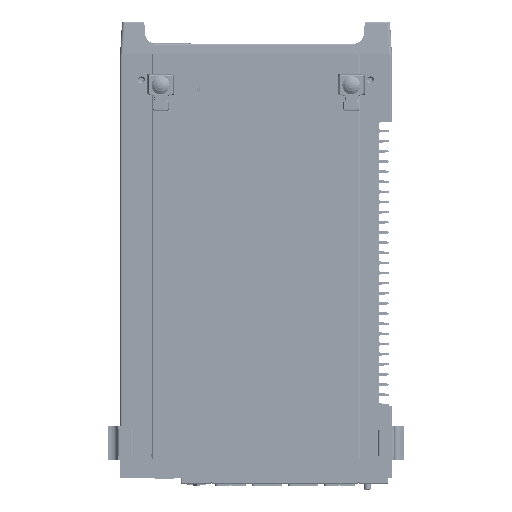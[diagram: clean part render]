
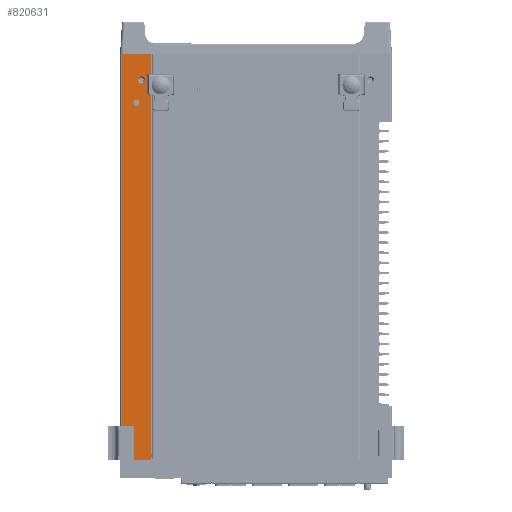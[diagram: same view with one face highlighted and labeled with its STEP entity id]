
A CAD part, front view. The second image highlights one B-rep face of the part: STEP entity #820631.
In plain terms, the highlighted planar face has unit normal (0, -1, 0).
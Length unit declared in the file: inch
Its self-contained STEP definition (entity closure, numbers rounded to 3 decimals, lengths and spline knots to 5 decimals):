
#815672=DIRECTION('',(1.,0.,0.));
#815673=VECTOR('',#815672,0.905);
#815674=CARTESIAN_POINT('',(6.905,-0.05,0.));
#815675=LINE('',#815674,#815673);
#816388=DIRECTION('',(1.,0.,0.));
#816389=VECTOR('',#816388,0.525);
#816390=CARTESIAN_POINT('',(6.905,-0.05,12.55));
#816391=LINE('',#816390,#816389);
#816451=DIRECTION('',(1.,0.,0.));
#816452=VECTOR('',#816451,0.255);
#816453=CARTESIAN_POINT('',(7.555,-0.05,12.55));
#816454=LINE('',#816453,#816452);
#816672=DIRECTION('',(0.,0.,-1.));
#816673=VECTOR('',#816672,0.73);
#816674=CARTESIAN_POINT('',(7.43,-0.05,12.55));
#816675=LINE('',#816674,#816673);
#816679=DIRECTION('',(1.,0.,0.));
#816680=VECTOR('',#816679,0.125);
#816681=CARTESIAN_POINT('',(7.43,-0.05,11.82));
#816682=LINE('',#816681,#816680);
#816686=DIRECTION('',(0.,0.,-1.));
#816687=VECTOR('',#816686,0.73);
#816688=CARTESIAN_POINT('',(7.555,-0.05,12.55));
#816689=LINE('',#816688,#816687);
#816693=DIRECTION('',(0.,0.,1.));
#816694=VECTOR('',#816693,12.55);
#816695=CARTESIAN_POINT('',(6.905,-0.05,0.));
#816696=LINE('',#816695,#816694);
#816700=CARTESIAN_POINT('',(7.2,-0.05,0.79));
#816701=DIRECTION('',(0.,1.,0.));
#816702=DIRECTION('',(0.,0.,1.));
#816703=AXIS2_PLACEMENT_3D('',#816700,#816701,#816702);
#816708=CARTESIAN_POINT('',(7.2,-0.05,0.79));
#816709=DIRECTION('',(0.,1.,0.));
#816710=DIRECTION('',(0.,0.,-1.));
#816711=AXIS2_PLACEMENT_3D('',#816708,#816709,#816710);
#816716=CARTESIAN_POINT('',(7.355,-0.05,1.5));
#816717=DIRECTION('',(0.,-1.,0.));
#816718=DIRECTION('',(-1.,0.,0.));
#816719=AXIS2_PLACEMENT_3D('',#816716,#816717,#816718);
#816724=CARTESIAN_POINT('',(7.355,-0.05,1.5));
#816725=DIRECTION('',(0.,-1.,0.));
#816726=DIRECTION('',(1.,0.,0.));
#816727=AXIS2_PLACEMENT_3D('',#816724,#816725,#816726);
#816761=DIRECTION('',(0.,0.,1.));
#816762=VECTOR('',#816761,12.55);
#816763=CARTESIAN_POINT('',(7.81,-0.05,0.));
#816764=LINE('',#816763,#816762);
#819087=CARTESIAN_POINT('',(6.905,-0.05,0.));
#819088=VERTEX_POINT('',#819087);
#819094=CARTESIAN_POINT('',(6.905,-0.05,12.55));
#819096=VERTEX_POINT('',#819094);
#819143=CARTESIAN_POINT('',(7.43,-0.05,12.55));
#819145=VERTEX_POINT('',#819143);
#819147=CARTESIAN_POINT('',(7.555,-0.05,12.55));
#819149=VERTEX_POINT('',#819147);
#819151=CARTESIAN_POINT('',(7.43,-0.05,11.82));
#819152=VERTEX_POINT('',#819151);
#819153=CARTESIAN_POINT('',(7.555,-0.05,11.82));
#819154=VERTEX_POINT('',#819153);
#819277=CARTESIAN_POINT('',(7.81,-0.05,0.));
#819278=CARTESIAN_POINT('',(7.81,-0.05,12.55));
#819279=VERTEX_POINT('',#819277);
#819280=VERTEX_POINT('',#819278);
#819337=CARTESIAN_POINT('',(7.2,-0.05,0.89596));
#819338=CARTESIAN_POINT('',(7.2,-0.05,0.68404));
#819339=VERTEX_POINT('',#819337);
#819340=VERTEX_POINT('',#819338);
#819673=CARTESIAN_POINT('',(7.261,-0.05,1.5));
#819674=CARTESIAN_POINT('',(7.449,-0.05,1.5));
#819675=VERTEX_POINT('',#819673);
#819676=VERTEX_POINT('',#819674);
#820601=CARTESIAN_POINT('',(6.905,-0.05,0.));
#820602=DIRECTION('',(0.,-1.,0.));
#820603=DIRECTION('',(1.,0.,0.));
#820604=AXIS2_PLACEMENT_3D('',#820601,#820602,#820603);
#820605=PLANE('',#820604);
#820606=ORIENTED_EDGE('',*,*,#820530,.T.);
#820608=ORIENTED_EDGE('',*,*,#820607,.T.);
#820610=ORIENTED_EDGE('',*,*,#820609,.F.);
#820611=ORIENTED_EDGE('',*,*,#820442,.T.);
#820613=ORIENTED_EDGE('',*,*,#820612,.F.);
#820614=ORIENTED_EDGE('',*,*,#819708,.F.);
#820615=ORIENTED_EDGE('',*,*,#820589,.T.);
#820616=ORIENTED_EDGE('',*,*,#820395,.T.);
#820617=EDGE_LOOP('',(#820606,#820608,#820610,#820611,#820613,#820614,#820615,
#820616));
#820618=FACE_OUTER_BOUND('',#820617,.F.);
#820620=ORIENTED_EDGE('',*,*,#820619,.F.);
#820622=ORIENTED_EDGE('',*,*,#820621,.F.);
#820623=EDGE_LOOP('',(#820620,#820622));
#820624=FACE_BOUND('',#820623,.F.);
#820626=ORIENTED_EDGE('',*,*,#820625,.T.);
#820628=ORIENTED_EDGE('',*,*,#820627,.T.);
#820629=EDGE_LOOP('',(#820626,#820628));
#820630=FACE_BOUND('',#820629,.F.);
#816704=CIRCLE('',#816703,0.10596);
#816712=CIRCLE('',#816711,0.10596);
#816720=CIRCLE('',#816719,0.094);
#816728=CIRCLE('',#816727,0.094);
#819708=EDGE_CURVE('',#819088,#819279,#815675,.T.);
#820395=EDGE_CURVE('',#819096,#819145,#816391,.T.);
#820442=EDGE_CURVE('',#819149,#819280,#816454,.T.);
#820530=EDGE_CURVE('',#819145,#819152,#816675,.T.);
#820589=EDGE_CURVE('',#819088,#819096,#816696,.T.);
#820607=EDGE_CURVE('',#819152,#819154,#816682,.T.);
#820609=EDGE_CURVE('',#819149,#819154,#816689,.T.);
#820612=EDGE_CURVE('',#819279,#819280,#816764,.T.);
#820619=EDGE_CURVE('',#819339,#819340,#816704,.T.);
#820621=EDGE_CURVE('',#819340,#819339,#816712,.T.);
#820625=EDGE_CURVE('',#819675,#819676,#816720,.T.);
#820627=EDGE_CURVE('',#819676,#819675,#816728,.T.);
#820631=ADVANCED_FACE('',(#820618,#820624,#820630),#820605,.T.);
